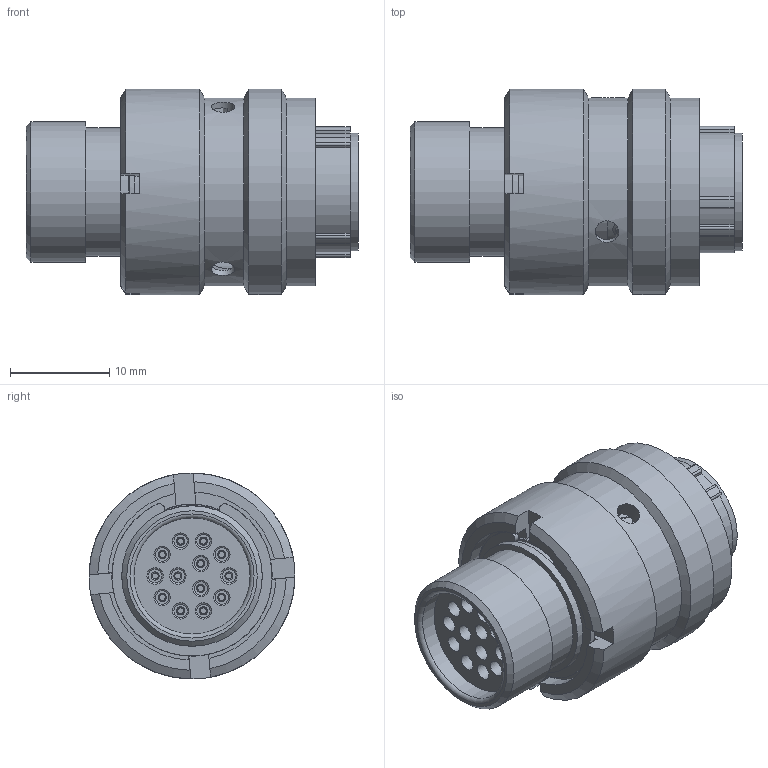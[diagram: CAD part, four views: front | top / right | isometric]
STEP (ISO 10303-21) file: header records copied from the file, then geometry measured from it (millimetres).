
FILE_DESCRIPTION(/* description */ ('STEP AP214'),/* implementation_level */ '2;1');
FILE_NAME(/* name */ 'AS610-35PN.step',/* time_stamp */ '',/* author */ (''),/* organization */ (''),/* preprocessor_version */ 'ST-DEVELOPER v20.1',/* originating_system */ 'Autodesk Translation Framework v15.8.0.0',/* authorisation */ '');
FILE_SCHEMA (('AUTOMOTIVE_DESIGN { 1 0 10303 214 3 1 1 }'));
Length unit declared in the file: inch
Products named in the file (1): AS610-35PN
Bounding box: 33.37 x 20.7 x 20.7 mm (x, y, z)
Volume: 4996.3 mm3; surface area: 6236.6 mm2
Topology: 1 solids, 15 shells, 671 faces, 1821 edges, 1199 vertices
Faces by surface type: plane 277, cylinder 191, torus 92, bspline 62, cone 48, sphere 1
Full cylindrical faces by diameter (mm): 0.61 x13, 0.744 x26, 1.65 x13, 1.73 x13, 2.38 x3, 10.41 x1, 10.67 x1, 11.05 x1, 11.67 x1, 11.685 x1, 11.86 x1, 12 x1, 12.24 x1, 12.345 x1, 12.9 x1, 13.71 x1, 14 x1, 14.12 x1, 14.14 x2, 14.44 x1, 15.03 x1, 15.39 x1, 18.04 x1, 18.95 x2, 20.7 x2
Entity records: 27902 total; most frequent: CARTESIAN_POINT 10550, ORIENTED_EDGE 3640, DIRECTION 3335, EDGE_CURVE 1820, AXIS2_PLACEMENT_3D 1464, VERTEX_POINT 1199, EDGE_LOOP 805, CIRCLE 782
